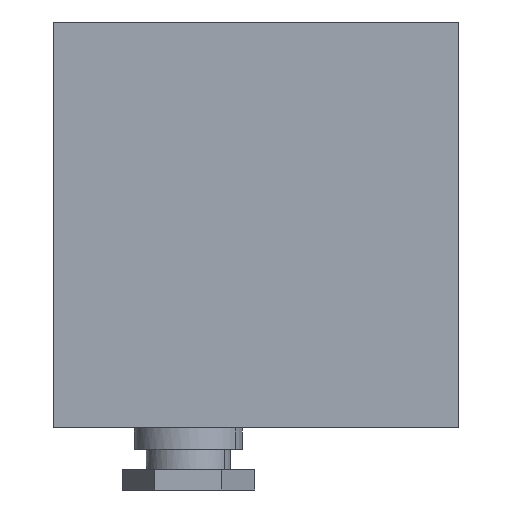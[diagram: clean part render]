
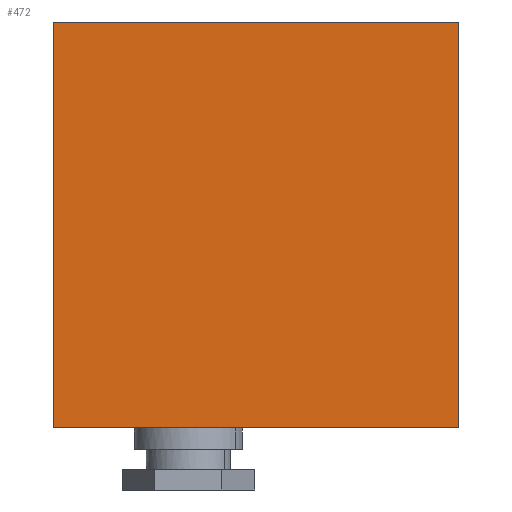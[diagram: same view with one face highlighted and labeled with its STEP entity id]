
A CAD part, front view. The second image highlights one B-rep face of the part: STEP entity #472.
In plain terms, the highlighted planar face has unit normal (0, -1, 0).
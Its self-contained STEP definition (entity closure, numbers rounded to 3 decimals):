
#349=CARTESIAN_POINT('Line Origine',(30.,0.,60.)) ;
#353=CARTESIAN_POINT('Vertex',(0.,0.,60.)) ;
#355=CARTESIAN_POINT('Vertex',(60.,0.,60.)) ;
#442=CARTESIAN_POINT('Axis2P3D Location',(0.,0.,60.)) ;
#447=CARTESIAN_POINT('Line Origine',(0.,0.,30.)) ;
#451=CARTESIAN_POINT('Vertex',(0.,0.,0.)) ;
#454=CARTESIAN_POINT('Line Origine',(30.,0.,0.)) ;
#458=CARTESIAN_POINT('Vertex',(60.,0.,0.)) ;
#461=CARTESIAN_POINT('Line Origine',(60.,0.,30.)) ;
#350=DIRECTION('Vector Direction',(1.,0.,0.)) ;
#443=DIRECTION('Axis2P3D Direction',(0.,1.,0.)) ;
#444=DIRECTION('Axis2P3D XDirection',(0.,0.,1.)) ;
#448=DIRECTION('Vector Direction',(0.,0.,1.)) ;
#455=DIRECTION('Vector Direction',(-1.,0.,0.)) ;
#462=DIRECTION('Vector Direction',(0.,0.,-1.)) ;
#445=AXIS2_PLACEMENT_3D('Plane Axis2P3D',#442,#443,#444) ;
#467=ORIENTED_EDGE('',*,*,#453,.F.) ;
#468=ORIENTED_EDGE('',*,*,#460,.F.) ;
#469=ORIENTED_EDGE('',*,*,#465,.F.) ;
#470=ORIENTED_EDGE('',*,*,#357,.F.) ;
#351=VECTOR('Line Direction',#350,1.) ;
#449=VECTOR('Line Direction',#448,1.) ;
#456=VECTOR('Line Direction',#455,1.) ;
#463=VECTOR('Line Direction',#462,1.) ;
#472=ADVANCED_FACE('NONE',(#471),#446,.F.) ;
#357=EDGE_CURVE('',#354,#356,#352,.T.) ;
#453=EDGE_CURVE('',#452,#354,#450,.T.) ;
#460=EDGE_CURVE('',#459,#452,#457,.T.) ;
#465=EDGE_CURVE('',#356,#459,#464,.T.) ;
#466=EDGE_LOOP('',(#467,#468,#469,#470)) ;
#471=FACE_OUTER_BOUND('',#466,.T.) ;
#352=LINE('Line',#349,#351) ;
#450=LINE('Line',#447,#449) ;
#457=LINE('Line',#454,#456) ;
#464=LINE('Line',#461,#463) ;
#446=PLANE('Plane',#445) ;
#354=VERTEX_POINT('',#353) ;
#356=VERTEX_POINT('',#355) ;
#452=VERTEX_POINT('',#451) ;
#459=VERTEX_POINT('',#458) ;
